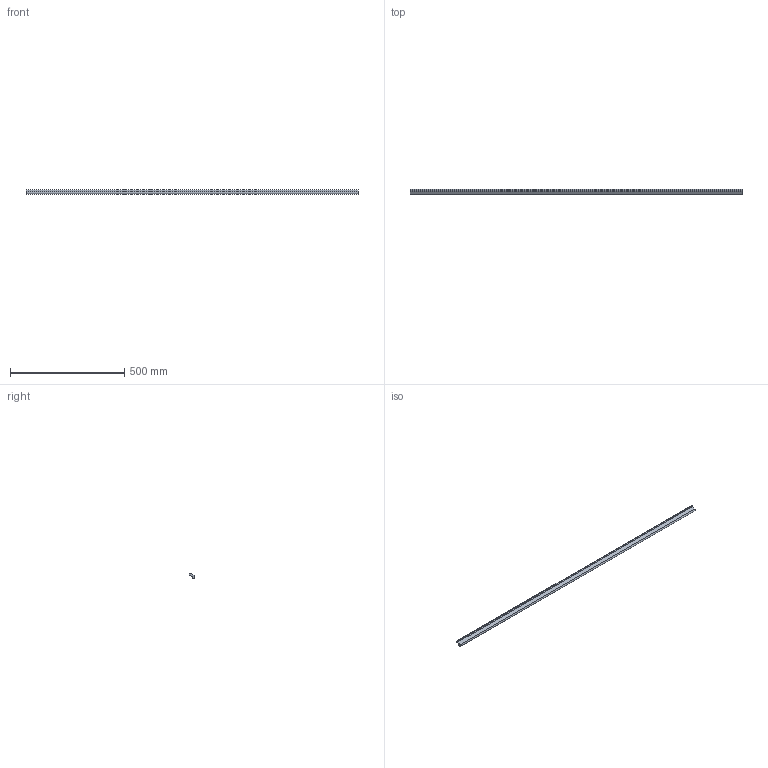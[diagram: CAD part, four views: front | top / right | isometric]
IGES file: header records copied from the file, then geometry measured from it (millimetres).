
Start section: Data from Parasolid IGES Translator 15.0.47, Copyright(c) 2006 Siemens P LM Software. All Rights Reserved.
Global section: file name: 115103.igs; native system:  By UGS Corp.; preprocessor: XPlus GENERIC/IGES 3.0; author: Noname; organization: Noname; date: 20140122.143648; units: millimetre
Bounding box: 1450 x 24 x 19.77 mm (x, y, z)
Surface area: 103323.3 mm2 (no closed solid volume)
Topology: 0 solids, 0 shells, 19 faces, 78 edges, 72 vertices
Faces by surface type: extrusion 11, revolution 8
